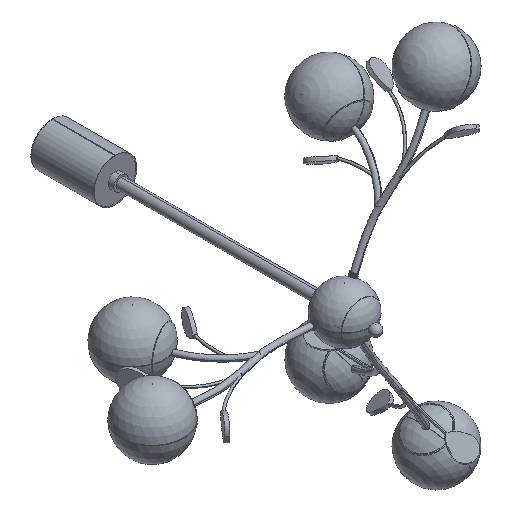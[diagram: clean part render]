
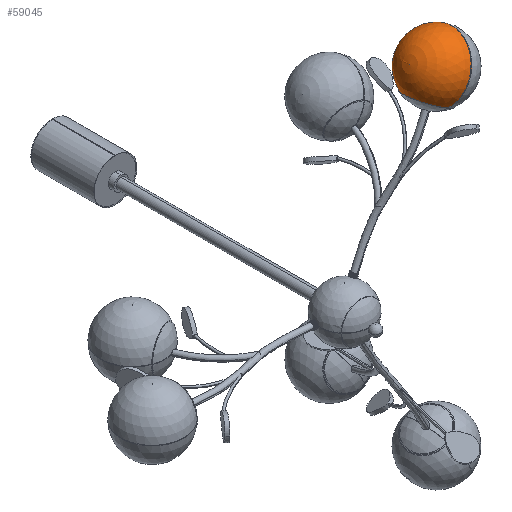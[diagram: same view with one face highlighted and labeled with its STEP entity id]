
A CAD part, isometric view. The second image highlights one B-rep face of the part: STEP entity #59045.
In plain terms, the highlighted spherical face has radius 55 mm.
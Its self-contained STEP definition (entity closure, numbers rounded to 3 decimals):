
#19 = CARTESIAN_POINT ( 'NONE',  ( 165.364, -40.042, 286.419 ) ) ;
#47 = CIRCLE ( 'NONE', #85885, 55. ) ;
#2475 = FACE_OUTER_BOUND ( 'NONE', #79020, .T. ) ;
#5562 = AXIS2_PLACEMENT_3D ( 'NONE', #41305, #90861, #76231 ) ;
#7426 = ORIENTED_EDGE ( 'NONE', *, *, #49587, .T. ) ;
#8023 = ORIENTED_EDGE ( 'NONE', *, *, #76834, .F. ) ;
#8335 = DIRECTION ( 'NONE',  ( -0.045, 0.996, -0.079 ) ) ;
#11420 = DIRECTION ( 'NONE',  ( 0.866, 0., -0.5 ) ) ;
#14938 = DIRECTION ( 'NONE',  ( -0.498, -0.091, -0.862 ) ) ;
#19578 = AXIS2_PLACEMENT_3D ( 'NONE', #65436, #14938, #8335 ) ;
#22160 = DIRECTION ( 'NONE',  ( 0.866, 0., -0.5 ) ) ;
#28296 = DIRECTION ( 'NONE',  ( -0.5, 0., -0.866 ) ) ;
#31467 = ORIENTED_EDGE ( 'NONE', *, *, #78816, .F. ) ;
#36139 = CIRCLE ( 'NONE', #19578, 35.185 ) ;
#41305 = CARTESIAN_POINT ( 'NONE',  ( 165.364, -40.042, 286.419 ) ) ;
#46819 = SPHERICAL_SURFACE ( 'NONE', #89413, 55. ) ;
#48840 = CARTESIAN_POINT ( 'NONE',  ( 142.719, -8.835, 247.197 ) ) ;
#49587 = EDGE_CURVE ( 'NONE', #80449, #81930, #62808, .T. ) ;
#59045 = ADVANCED_FACE ( 'NONE', ( #2475 ), #46819, .T. ) ;
#59725 = CARTESIAN_POINT ( 'NONE',  ( 145.909, -78.914, 252.722 ) ) ;
#60500 = DIRECTION ( 'NONE',  ( -0.045, 0.996, -0.079 ) ) ;
#62808 = CIRCLE ( 'NONE', #5562, 55. ) ;
#65436 = CARTESIAN_POINT ( 'NONE',  ( 144.314, -43.875, 249.96 ) ) ;
#66174 = CARTESIAN_POINT ( 'NONE',  ( 192.751, -35.055, 333.854 ) ) ;
#76231 = DIRECTION ( 'NONE',  ( 0.5, 0., 0.866 ) ) ;
#76834 = EDGE_CURVE ( 'NONE', #85910, #81930, #36139, .T. ) ;
#78816 = EDGE_CURVE ( 'NONE', #80449, #85910, #47, .T. ) ;
#79020 = EDGE_LOOP ( 'NONE', ( #31467, #7426, #8023 ) ) ;
#80449 = VERTEX_POINT ( 'NONE', #66174 ) ;
#81930 = VERTEX_POINT ( 'NONE', #48840 ) ;
#83117 = CARTESIAN_POINT ( 'NONE',  ( 165.364, -40.042, 286.419 ) ) ;
#85885 = AXIS2_PLACEMENT_3D ( 'NONE', #19, #22160, #28296 ) ;
#85910 = VERTEX_POINT ( 'NONE', #59725 ) ;
#89413 = AXIS2_PLACEMENT_3D ( 'NONE', #83117, #11420, #60500 ) ;
#90861 = DIRECTION ( 'NONE',  ( -0.866, 0., 0.5 ) ) ;
